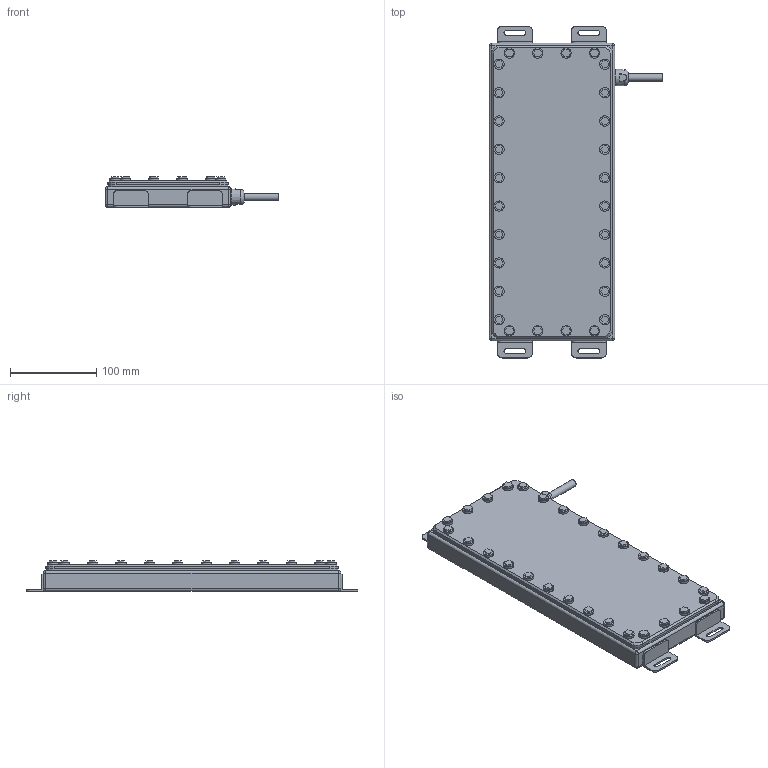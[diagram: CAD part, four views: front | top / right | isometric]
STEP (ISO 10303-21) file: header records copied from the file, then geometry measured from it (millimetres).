
FILE_DESCRIPTION (( 'STEP AP214' ), '1' );
FILE_NAME ('EFFI-BL-IP69K-100-300-ZZZ-FOOD.STEP', '2021-06-16T14:28:05', ( '' ), ( '' ), 'SwSTEP 2.0', 'SolidWorks 2021', '' );
FILE_SCHEMA (( 'AUTOMOTIVE_DESIGN' ));
Length unit declared in the file: millimetre
Products named in the file (1): EFFI-BL-IP69K-100-300-ZZZ-FOOD
Bounding box: 202 x 386 x 35.6 mm (x, y, z)
Volume: 1567961 mm3; surface area: 239967.6 mm2
Topology: 18 solids, 18 shells, 415 faces, 965 edges, 624 vertices
Faces by surface type: plane 308, cylinder 82, bspline 9, sphere 8, cone 5, torus 3
Full cylindrical faces by diameter (mm): 7 x1, 8.4 x1, 12 x29, 14 x1, 19 x1
Entity records: 12764 total; most frequent: CARTESIAN_POINT 3002, DIRECTION 1885, ORIENTED_EDGE 1832, EDGE_CURVE 916, VECTOR 711, LINE 711, VERTEX_POINT 618, AXIS2_PLACEMENT_3D 587
